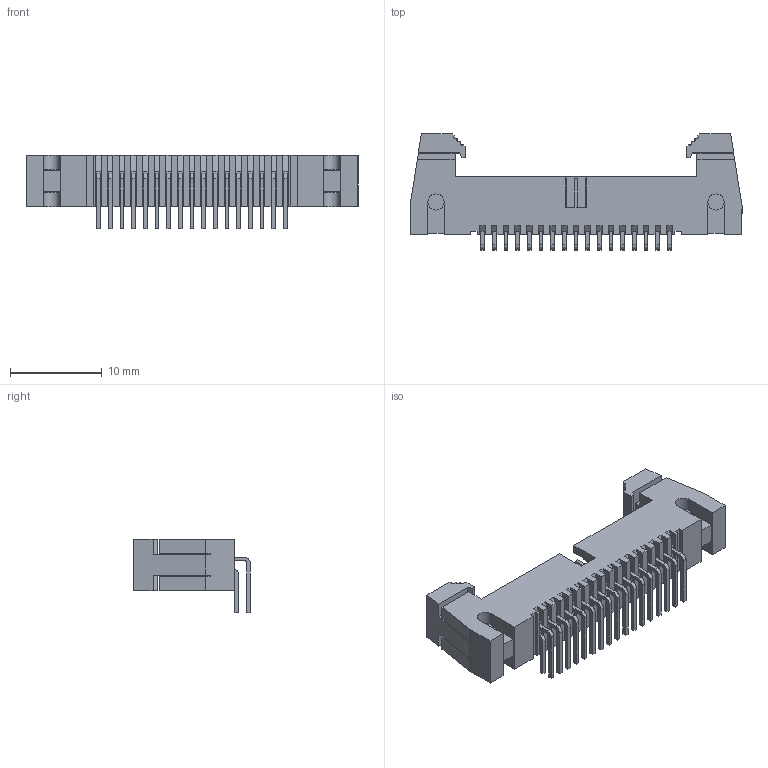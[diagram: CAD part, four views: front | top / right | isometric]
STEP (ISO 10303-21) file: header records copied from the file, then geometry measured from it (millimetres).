
FILE_DESCRIPTION (( 'STEP AP214' ), '1' );
FILE_NAME ('HC-NJ127-2-17-W-11.0-XX-B (1.27 籟褒 俔渀-HCTL).STEP', '2024-12-18T06:12:51', ( '' ), ( '' ), 'SwSTEP 2.0', 'SolidWorks 2022', '' );
FILE_SCHEMA (( 'AUTOMOTIVE_DESIGN' ));
Length unit declared in the file: millimetre
Products named in the file (1): HC-NJ127-2-17-W-11.0-XX-B (1.27 籟褒 俔渀-HCTL)
Bounding box: 36.09 x 12.67 x 8 mm (x, y, z)
Volume: 1100.6 mm3; surface area: 2214.3 mm2
Topology: 1 solids, 1 shells, 688 faces, 1874 edges, 1244 vertices
Faces by surface type: plane 602, cylinder 86
Entity records: 23800 total; most frequent: CARTESIAN_POINT 3807, ORIENTED_EDGE 3748, DIRECTION 3424, EDGE_CURVE 1874, VECTOR 1702, LINE 1702, VERTEX_POINT 1244, AXIS2_PLACEMENT_3D 861
